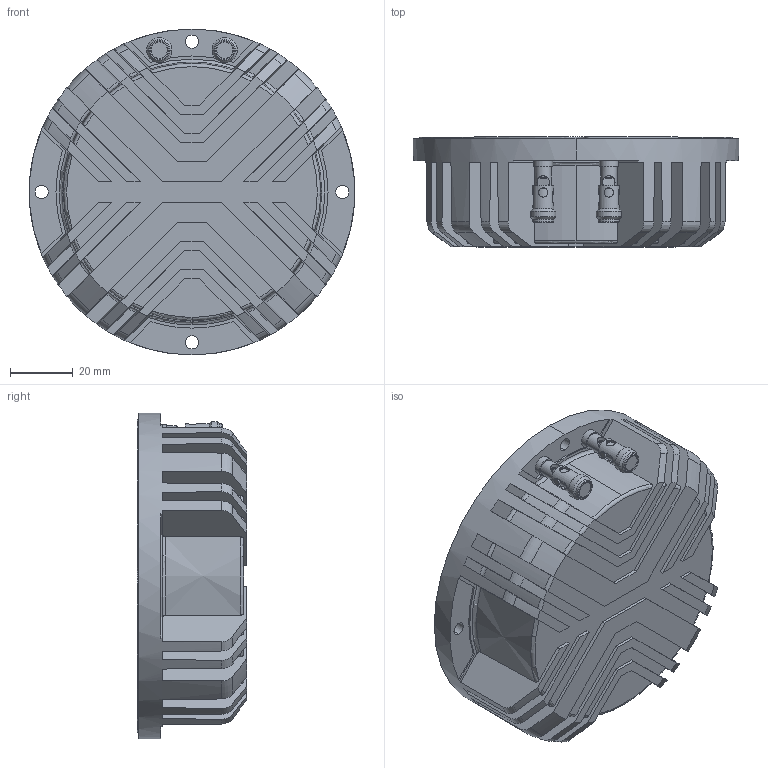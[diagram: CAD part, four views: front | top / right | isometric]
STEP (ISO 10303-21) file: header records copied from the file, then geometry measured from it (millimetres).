
FILE_DESCRIPTION (( 'STEP AP214' ), '1' );
FILE_NAME ('Xcite_XBS50_vCAD.STEP', '2025-11-18T06:12:32', ( '' ), ( '' ), 'SwSTEP 2.0', 'SolidWorks 2022', '' );
FILE_SCHEMA (( 'AUTOMOTIVE_DESIGN' ));
Length unit declared in the file: millimetre
Products named in the file (6): XBS50_Basket_vCAD; XBS50_Terminal_Red_vCAD; Xcite_XBS50_vCAD; XBS50_GroundPlate_vCAD; XBS50_FoamRubber_vCAD; XBS50_Terminal_Black_vCAD
Assembly tree (5 placements, depth 2):
  Xcite_XBS50_vCAD
    XBS50_Basket_vCAD
    XBS50_GroundPlate_vCAD
    XBS50_FoamRubber_vCAD
    XBS50_Terminal_Black_vCAD
    XBS50_Terminal_Red_vCAD
Bounding box: 104 x 35 x 104 mm (x, y, z)
Volume: 225290.1 mm3; surface area: 72808.7 mm2
Topology: 19 solids, 19 shells, 583 faces, 1597 edges, 1050 vertices
Faces by surface type: plane 232, cylinder 196, torus 74, cone 73, bspline 4, sphere 4
Entity records: 26719 total; most frequent: CARTESIAN_POINT 9238, ORIENTED_EDGE 3194, DIRECTION 2939, EDGE_CURVE 1597, AXIS2_PLACEMENT_3D 1151, VERTEX_POINT 1050, EDGE_LOOP 649, LINE 637
